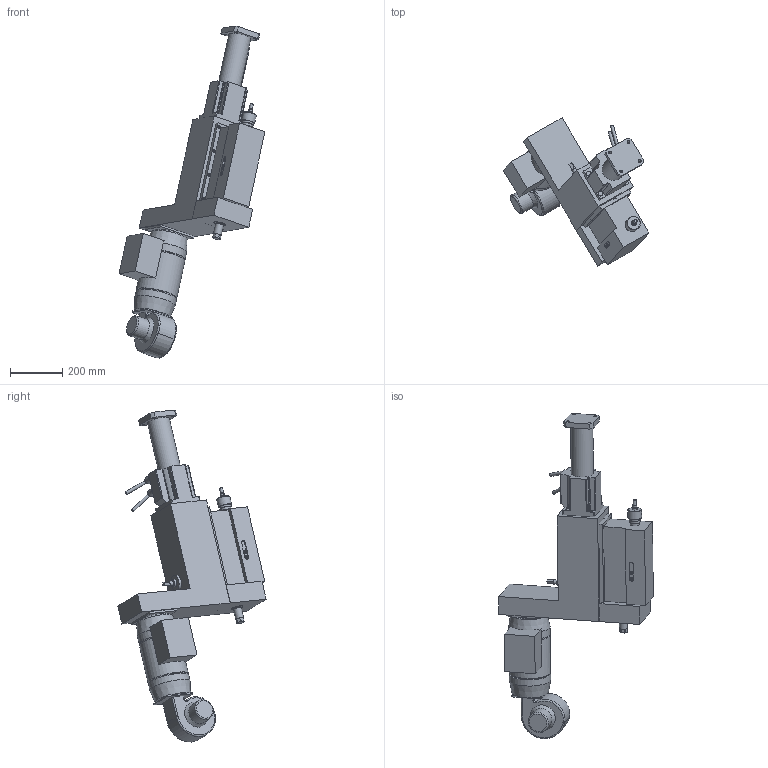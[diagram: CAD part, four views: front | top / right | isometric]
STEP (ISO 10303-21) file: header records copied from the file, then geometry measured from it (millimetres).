
FILE_DESCRIPTION((''),'2;1');
FILE_NAME('C:\VaultWork\Zeichnungen\Maßblätter\Gewindemaschinen\GE6-7\GE6-7-04 Maßblatt Tischmaschine GE6-7 höhenverstellbar über Kegelradantrieb Z-Laterne.stp','2009-08-19T14:27:21',('Test'),(''),'Autodesk Inventor 2008','Autodesk Inventor 2008','');
FILE_SCHEMA(('AUTOMOTIVE_DESIGN { 1 0 10303 214 1 1 1 1 }'));
Length unit declared in the file: millimetre
Products named in the file (1): GE6-7-04 Maßblatt Tischmaschine GE6-7 höhenverstellbar über Kegelradantrieb Z-Laterne
Bounding box: 556.34 x 566.26 x 1267.15 mm (x, y, z)
Volume: 34609220.5 mm3; surface area: 1211699.8 mm2
Topology: 1 solids, 5 shells, 349 faces, 829 edges, 538 vertices
Faces by surface type: plane 195, cylinder 83, bspline 50, cone 12, torus 9
Full cylindrical faces by diameter (mm): 7 x2, 11.5 x1, 12 x2, 14 x1, 16 x2, 19 x2, 20 x1, 25 x2, 26 x1, 28 x3, 30 x2, 35 x1, 40 x1, 44 x1, 45 x1, 52 x1, 59 x1, 80 x1, 85 x1, 120 x1, 150 x1, 158 x2
Entity records: 10462 total; most frequent: CARTESIAN_POINT 2429, DIRECTION 1584, ORIENTED_EDGE 1444, EDGE_CURVE 722, AXIS2_PLACEMENT_3D 580, VERTEX_POINT 513, EDGE_LOOP 491, VECTOR 424
